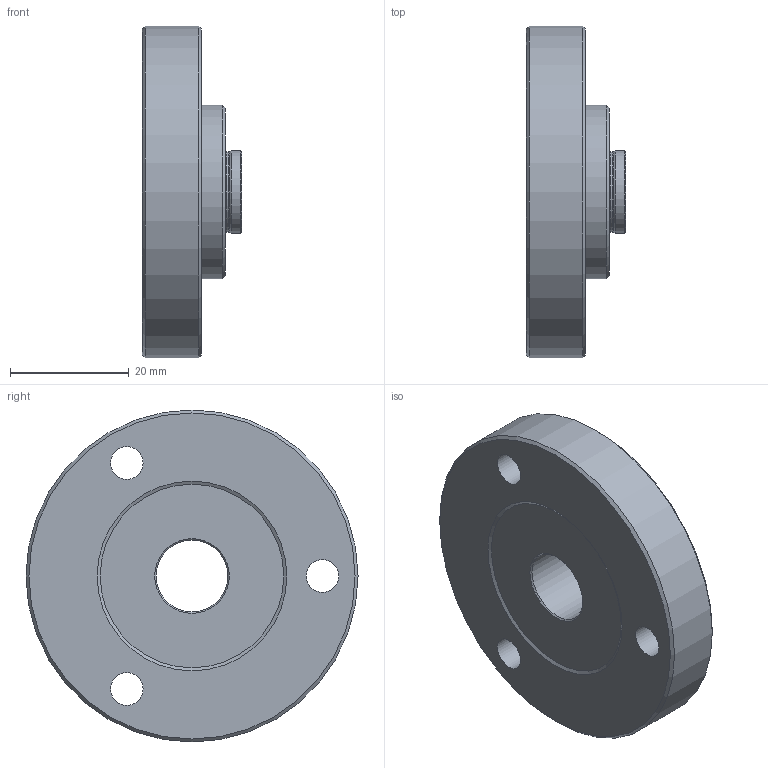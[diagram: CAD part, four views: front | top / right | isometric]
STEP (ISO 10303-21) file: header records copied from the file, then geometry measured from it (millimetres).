
FILE_DESCRIPTION(/* description */ ('Adapter Nullpunktspannsystem'),/* implementation_level */ '2;1');
FILE_NAME(/* name */ 'Y:\Futter\Synchronisation Ordner\(DBFxx_98-00) Aufnahmen für Nullpunktspannsysteme\DBF34_98-11 Adapter Nullpunktspannsystem.ipt.step',/* time_stamp */ '2022-01-28T15:14:03+01:00',/* author */ ('D. Pustolla'),/* organization */ (''),/* preprocessor_version */ 'ST-DEVELOPER v15.2',/* originating_system */ 'Autodesk Inventor 2014',/* authorisation */ '');
FILE_SCHEMA (('AUTOMOTIVE_DESIGN { 1 0 10303 214 3 1 1 }'));
Length unit declared in the file: millimetre
Products named in the file (1): DBF34_98-11 Adapter Nullpunktspannsystem
Bounding box: 16.8 x 56 x 56 mm (x, y, z)
Volume: 23861.5 mm3; surface area: 8176.9 mm2
Topology: 1 solids, 1 shells, 42 faces, 95 edges, 59 vertices
Faces by surface type: cone 14, cylinder 14, plane 9, torus 5
Full cylindrical faces by diameter (mm): 1.567 x3, 5.5 x3, 10 x3, 12.1 x1, 13.6 x1, 14 x1, 29.3 x1, 56 x1
Entity records: 1084 total; most frequent: CARTESIAN_POINT 230, DIRECTION 186, ORIENTED_EDGE 124, AXIS2_PLACEMENT_3D 93, EDGE_LOOP 81, EDGE_CURVE 62, VERTEX_POINT 53, CIRCLE 50
